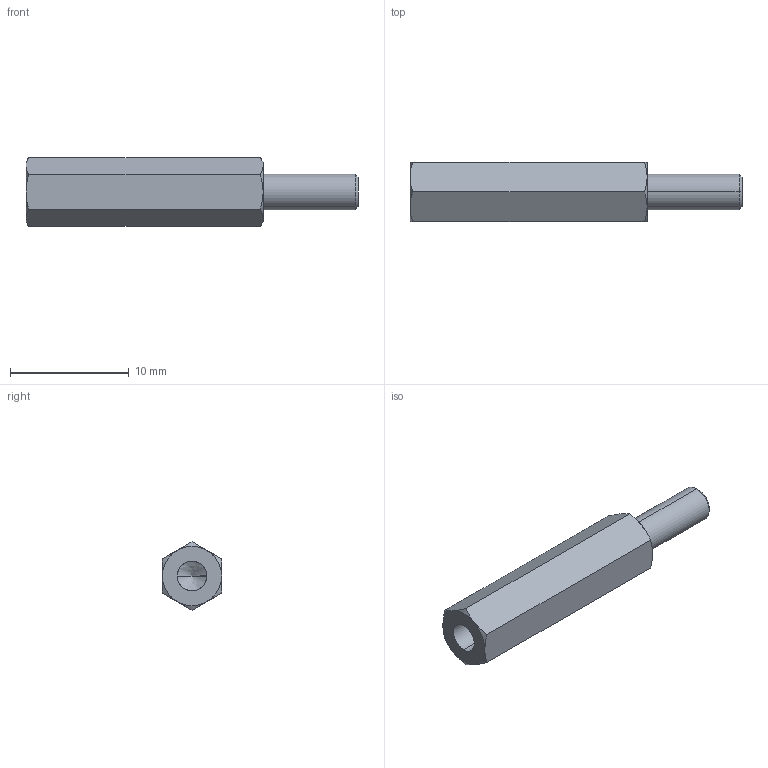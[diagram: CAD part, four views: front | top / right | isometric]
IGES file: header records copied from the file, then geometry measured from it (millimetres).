
Start section: SolidWorks IGES file using analytic representation for surfaces
Global section: file name: C:\Users\render1\Desktop\P0185_IGES\P0185.03-20.igs; native system: SolidWorks 2009; preprocessor: SolidWorks 2009; author: render1; date: 130627.111747; units: millimetre
Bounding box: 28 x 5 x 5.77 mm (x, y, z)
Surface area: 525.2 mm2 (no closed solid volume)
Topology: 0 solids, 0 shells, 29 faces, 324 edges, 322 vertices
Faces by surface type: revolution 20, bspline 9
